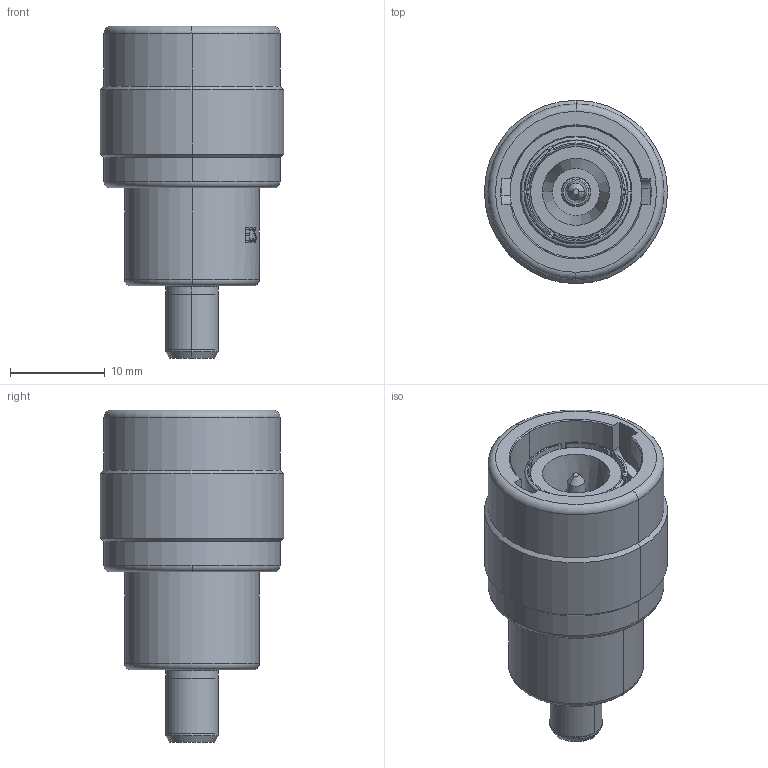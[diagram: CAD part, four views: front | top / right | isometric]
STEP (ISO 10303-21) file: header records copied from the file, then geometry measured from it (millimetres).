
FILE_DESCRIPTION((''),'2;1');
FILE_NAME('CCS922','2019-12-02T16:47:04',('paul.nurczyk'),('Carlisle Interconnect Technologies'),'CREO PARAMETRIC BY PTC INC, 2017260','CREO PARAMETRIC BY PTC INC, 2017260','');
FILE_SCHEMA(('CONFIG_CONTROL_DESIGN'));
Length unit declared in the file: inch
Products named in the file (1): CCS922
Bounding box: 19.3 x 19.3 x 34.98 mm (x, y, z)
Volume: 5418.2 mm3; surface area: 3802.3 mm2
Topology: 1 solids, 1 shells, 503 faces, 1392 edges, 914 vertices
Faces by surface type: bspline 252, plane 151, cylinder 58, cone 26, torus 16
Entity records: 22026 total; most frequent: CARTESIAN_POINT 9623, ORIENTED_EDGE 2784, DIRECTION 2369, EDGE_CURVE 1392, AXIS2_PLACEMENT_3D 923, VERTEX_POINT 914, CIRCLE 672, EDGE_LOOP 526
